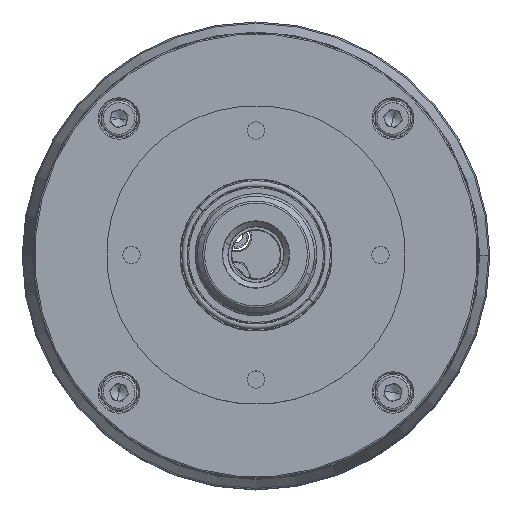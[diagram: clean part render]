
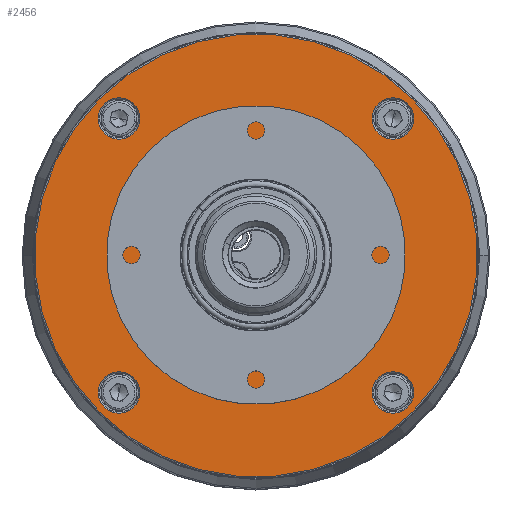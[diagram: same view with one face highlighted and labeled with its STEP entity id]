
A CAD part, top view. The second image highlights one B-rep face of the part: STEP entity #2456.
In plain terms, the highlighted planar face has unit normal (0, 0, 1).
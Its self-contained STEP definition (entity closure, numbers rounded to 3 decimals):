
#40 = CARTESIAN_POINT ( 'NONE',  ( 49.497, -49.497, 139.5 ) ) ;
#54 = DIRECTION ( 'NONE',  ( 0., 0., -1. ) ) ;
#71 = DIRECTION ( 'NONE',  ( 0., 0., -1. ) ) ;
#328 = EDGE_CURVE ( 'NONE', #12103, #8459, #333, .T. ) ;
#333 = CIRCLE ( 'NONE', #19101, 7.5 ) ;
#535 = FACE_BOUND ( 'NONE', #15472, .T. ) ;
#698 = AXIS2_PLACEMENT_3D ( 'NONE', #720, #18092, #9158 ) ;
#720 = CARTESIAN_POINT ( 'NONE',  ( 49.497, -49.497, 139.5 ) ) ;
#1392 = CARTESIAN_POINT ( 'NONE',  ( -44.194, -44.194, 139.5 ) ) ;
#2153 = DIRECTION ( 'NONE',  ( 0.707, 0.707, 0. ) ) ;
#2199 = DIRECTION ( 'NONE',  ( 0., 0., 1. ) ) ;
#2456 = ADVANCED_FACE ( 'NONE', ( #535, #23749, #10968, #2598, #24029, #12926 ), #9783, .T. ) ;
#2494 = VERTEX_POINT ( 'NONE', #18322 ) ;
#2598 = FACE_BOUND ( 'NONE', #20409, .T. ) ;
#3038 = CARTESIAN_POINT ( 'NONE',  ( 49.497, 49.497, 139.5 ) ) ;
#3075 = CARTESIAN_POINT ( 'NONE',  ( -49.497, 49.497, 139.5 ) ) ;
#3182 = AXIS2_PLACEMENT_3D ( 'NONE', #3038, #15560, #7217 ) ;
#3320 = CARTESIAN_POINT ( 'NONE',  ( 0., 0., 139.5 ) ) ;
#4076 = CIRCLE ( 'NONE', #17131, 40.59 ) ;
#4108 = VERTEX_POINT ( 'NONE', #9383 ) ;
#4290 = CIRCLE ( 'NONE', #13694, 7.5 ) ;
#4665 = AXIS2_PLACEMENT_3D ( 'NONE', #40, #23948, #11163 ) ;
#4695 = EDGE_LOOP ( 'NONE', ( #8571, #5672 ) ) ;
#4801 = CARTESIAN_POINT ( 'NONE',  ( 54.801, -44.194, 139.5 ) ) ;
#4861 = EDGE_CURVE ( 'NONE', #22484, #4108, #23365, .T. ) ;
#4886 = EDGE_CURVE ( 'NONE', #5129, #26176, #10779, .T. ) ;
#4928 = ORIENTED_EDGE ( 'NONE', *, *, #8900, .T. ) ;
#5091 = CARTESIAN_POINT ( 'NONE',  ( -26.517, 26.517, 139.5 ) ) ;
#5129 = VERTEX_POINT ( 'NONE', #1392 ) ;
#5192 = ORIENTED_EDGE ( 'NONE', *, *, #18635, .T. ) ;
#5233 = DIRECTION ( 'NONE',  ( 0., 0., 1. ) ) ;
#5348 = EDGE_CURVE ( 'NONE', #4108, #22484, #15291, .T. ) ;
#5672 = ORIENTED_EDGE ( 'NONE', *, *, #4861, .T. ) ;
#5688 = ORIENTED_EDGE ( 'NONE', *, *, #17613, .T. ) ;
#5740 = EDGE_LOOP ( 'NONE', ( #5688, #9510 ) ) ;
#5808 = EDGE_CURVE ( 'NONE', #16469, #10195, #4076, .T. ) ;
#5926 = DIRECTION ( 'NONE',  ( 0.707, 0.707, 0. ) ) ;
#5948 = CIRCLE ( 'NONE', #698, 7.5 ) ;
#6063 = DIRECTION ( 'NONE',  ( 0.707, 0.707, 0. ) ) ;
#6682 = CARTESIAN_POINT ( 'NONE',  ( -49.497, -49.497, 139.5 ) ) ;
#6834 = DIRECTION ( 'NONE',  ( 0.707, 0.707, 0. ) ) ;
#7029 = CIRCLE ( 'NONE', #22745, 80. ) ;
#7217 = DIRECTION ( 'NONE',  ( 0.707, 0.707, 0. ) ) ;
#7698 = CARTESIAN_POINT ( 'NONE',  ( -54.801, -54.801, 139.5 ) ) ;
#7724 = EDGE_LOOP ( 'NONE', ( #5192, #14127 ) ) ;
#8173 = CARTESIAN_POINT ( 'NONE',  ( 0., 0., 139.5 ) ) ;
#8459 = VERTEX_POINT ( 'NONE', #18050 ) ;
#8499 = CIRCLE ( 'NONE', #12101, 7.5 ) ;
#8571 = ORIENTED_EDGE ( 'NONE', *, *, #5348, .T. ) ;
#8900 = EDGE_CURVE ( 'NONE', #2494, #25957, #16779, .T. ) ;
#9120 = EDGE_CURVE ( 'NONE', #25957, #2494, #5948, .T. ) ;
#9158 = DIRECTION ( 'NONE',  ( 0.707, 0.707, 0. ) ) ;
#9383 = CARTESIAN_POINT ( 'NONE',  ( 54.801, 54.801, 139.5 ) ) ;
#9455 = DIRECTION ( 'NONE',  ( 0., 0., -1. ) ) ;
#9510 = ORIENTED_EDGE ( 'NONE', *, *, #328, .T. ) ;
#9783 = PLANE ( 'NONE',  #14943 ) ;
#9869 = AXIS2_PLACEMENT_3D ( 'NONE', #26063, #71, #6834 ) ;
#10195 = VERTEX_POINT ( 'NONE', #25105 ) ;
#10439 = DIRECTION ( 'NONE',  ( 0.707, 0.707, 0. ) ) ;
#10779 = CIRCLE ( 'NONE', #27354, 7.5 ) ;
#10782 = EDGE_LOOP ( 'NONE', ( #27381, #20274 ) ) ;
#10968 = FACE_BOUND ( 'NONE', #4695, .T. ) ;
#11163 = DIRECTION ( 'NONE',  ( 0.707, 0.707, 0. ) ) ;
#12101 = AXIS2_PLACEMENT_3D ( 'NONE', #18713, #21255, #2153 ) ;
#12103 = VERTEX_POINT ( 'NONE', #17388 ) ;
#12432 = CARTESIAN_POINT ( 'NONE',  ( 0., 0., 139.5 ) ) ;
#12676 = CARTESIAN_POINT ( 'NONE',  ( 0., 0., 139.5 ) ) ;
#12926 = FACE_OUTER_BOUND ( 'NONE', #7724, .T. ) ;
#13240 = EDGE_CURVE ( 'NONE', #17816, #24422, #14985, .T. ) ;
#13694 = AXIS2_PLACEMENT_3D ( 'NONE', #21089, #14457, #23033 ) ;
#14000 = DIRECTION ( 'NONE',  ( 0.707, 0.707, 0. ) ) ;
#14127 = ORIENTED_EDGE ( 'NONE', *, *, #13240, .T. ) ;
#14457 = DIRECTION ( 'NONE',  ( 0., 0., -1. ) ) ;
#14943 = AXIS2_PLACEMENT_3D ( 'NONE', #5091, #5233, #22255 ) ;
#14985 = CIRCLE ( 'NONE', #18578, 80. ) ;
#15291 = CIRCLE ( 'NONE', #3182, 7.5 ) ;
#15300 = DIRECTION ( 'NONE',  ( 0.707, 0.707, 0. ) ) ;
#15472 = EDGE_LOOP ( 'NONE', ( #22645, #18412 ) ) ;
#15560 = DIRECTION ( 'NONE',  ( 0., 0., -1. ) ) ;
#15806 = DIRECTION ( 'NONE',  ( 0., 0., 1. ) ) ;
#16469 = VERTEX_POINT ( 'NONE', #27553 ) ;
#16779 = CIRCLE ( 'NONE', #4665, 7.5 ) ;
#17131 = AXIS2_PLACEMENT_3D ( 'NONE', #3320, #20463, #5926 ) ;
#17388 = CARTESIAN_POINT ( 'NONE',  ( -54.801, 44.194, 139.5 ) ) ;
#17613 = EDGE_CURVE ( 'NONE', #8459, #12103, #8499, .T. ) ;
#17658 = CIRCLE ( 'NONE', #27408, 40.59 ) ;
#17803 = CARTESIAN_POINT ( 'NONE',  ( 56.569, 56.569, 139.5 ) ) ;
#17816 = VERTEX_POINT ( 'NONE', #21204 ) ;
#18050 = CARTESIAN_POINT ( 'NONE',  ( -44.194, 54.801, 139.5 ) ) ;
#18092 = DIRECTION ( 'NONE',  ( 0., 0., -1. ) ) ;
#18249 = CARTESIAN_POINT ( 'NONE',  ( 44.194, 44.194, 139.5 ) ) ;
#18322 = CARTESIAN_POINT ( 'NONE',  ( 44.194, -54.801, 139.5 ) ) ;
#18412 = ORIENTED_EDGE ( 'NONE', *, *, #26262, .T. ) ;
#18578 = AXIS2_PLACEMENT_3D ( 'NONE', #12676, #15806, #26569 ) ;
#18635 = EDGE_CURVE ( 'NONE', #24422, #17816, #7029, .T. ) ;
#18713 = CARTESIAN_POINT ( 'NONE',  ( -49.497, 49.497, 139.5 ) ) ;
#19101 = AXIS2_PLACEMENT_3D ( 'NONE', #3075, #9455, #14000 ) ;
#20274 = ORIENTED_EDGE ( 'NONE', *, *, #5808, .T. ) ;
#20409 = EDGE_LOOP ( 'NONE', ( #22229, #4928 ) ) ;
#20463 = DIRECTION ( 'NONE',  ( 0., 0., -1. ) ) ;
#21089 = CARTESIAN_POINT ( 'NONE',  ( -49.497, -49.497, 139.5 ) ) ;
#21204 = CARTESIAN_POINT ( 'NONE',  ( -56.569, -56.569, 139.5 ) ) ;
#21255 = DIRECTION ( 'NONE',  ( 0., 0., -1. ) ) ;
#21506 = EDGE_CURVE ( 'NONE', #10195, #16469, #17658, .T. ) ;
#22229 = ORIENTED_EDGE ( 'NONE', *, *, #9120, .T. ) ;
#22255 = DIRECTION ( 'NONE',  ( 0.707, 0.707, 0. ) ) ;
#22484 = VERTEX_POINT ( 'NONE', #18249 ) ;
#22645 = ORIENTED_EDGE ( 'NONE', *, *, #4886, .T. ) ;
#22745 = AXIS2_PLACEMENT_3D ( 'NONE', #8173, #2199, #6063 ) ;
#23033 = DIRECTION ( 'NONE',  ( 0.707, 0.707, 0. ) ) ;
#23365 = CIRCLE ( 'NONE', #9869, 7.5 ) ;
#23749 = FACE_BOUND ( 'NONE', #5740, .T. ) ;
#23948 = DIRECTION ( 'NONE',  ( 0., 0., -1. ) ) ;
#23968 = DIRECTION ( 'NONE',  ( 0., 0., -1. ) ) ;
#24029 = FACE_BOUND ( 'NONE', #10782, .T. ) ;
#24422 = VERTEX_POINT ( 'NONE', #17803 ) ;
#25105 = CARTESIAN_POINT ( 'NONE',  ( 28.701, 28.701, 139.5 ) ) ;
#25957 = VERTEX_POINT ( 'NONE', #4801 ) ;
#26063 = CARTESIAN_POINT ( 'NONE',  ( 49.497, 49.497, 139.5 ) ) ;
#26176 = VERTEX_POINT ( 'NONE', #7698 ) ;
#26262 = EDGE_CURVE ( 'NONE', #26176, #5129, #4290, .T. ) ;
#26569 = DIRECTION ( 'NONE',  ( 0.707, 0.707, 0. ) ) ;
#27354 = AXIS2_PLACEMENT_3D ( 'NONE', #6682, #23968, #15300 ) ;
#27381 = ORIENTED_EDGE ( 'NONE', *, *, #21506, .T. ) ;
#27408 = AXIS2_PLACEMENT_3D ( 'NONE', #12432, #54, #10439 ) ;
#27553 = CARTESIAN_POINT ( 'NONE',  ( -28.701, -28.701, 139.5 ) ) ;
